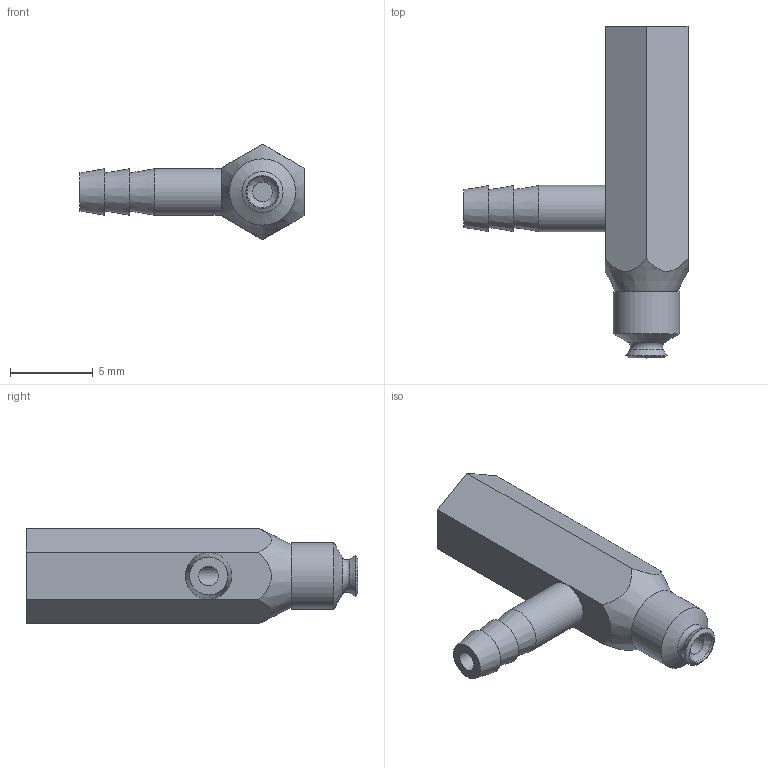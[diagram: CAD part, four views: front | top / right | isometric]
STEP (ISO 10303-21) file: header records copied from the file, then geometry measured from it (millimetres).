
FILE_DESCRIPTION(('STEP AP203'),'1');
FILE_NAME('.stp','2025-04-07T02:01:18',(' '),(' '),'Spatial InterOp 3D',' ',' ');
FILE_SCHEMA(('CONFIG_CONTROL_DESIGN'));
Length unit declared in the file: millimetre
Products named in the file (3): BBPFYK-2A-※; PFYK-1.5A; BPFG-2A-※
Assembly tree (2 placements, depth 2):
  BBPFYK-2A-※
    PFYK-1.5A
    BPFG-2A-※
Bounding box: 13.5 x 20 x 5.77 mm (x, y, z)
Volume: 377.2 mm3; surface area: 604.1 mm2
Topology: 2 solids, 2 shells, 47 faces, 96 edges, 59 vertices
Faces by surface type: plane 17, cylinder 11, cone 10, torus 8, bspline 1
Full cylindrical faces by diameter (mm): 1.2 x3, 2 x2, 2.459 x1, 2.8 x1, 3 x2, 4 x1
Entity records: 1253 total; most frequent: CARTESIAN_POINT 260, DIRECTION 190, ORIENTED_EDGE 118, AXIS2_PLACEMENT_3D 89, EDGE_LOOP 85, FACE_OUTER_BOUND 65, EDGE_CURVE 59, VERTEX_POINT 53
